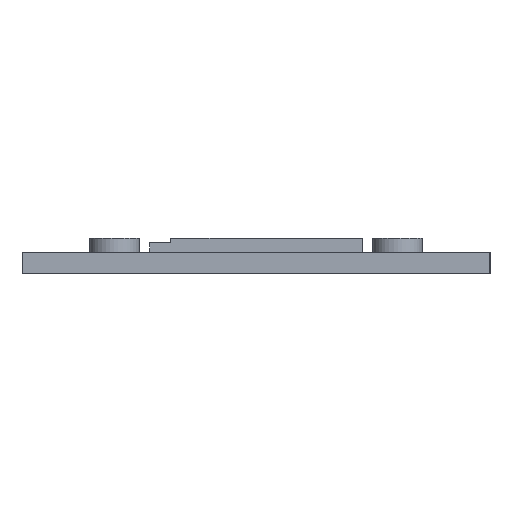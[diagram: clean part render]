
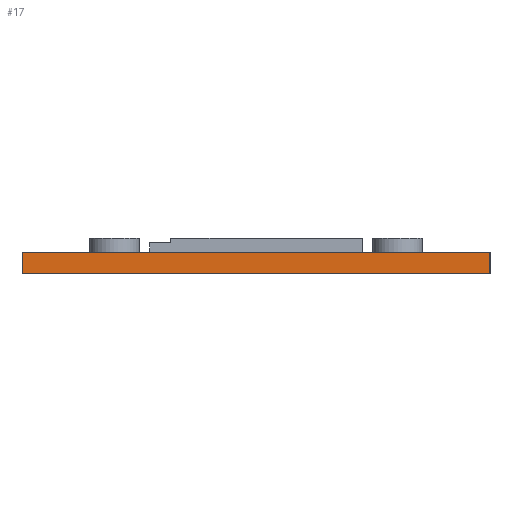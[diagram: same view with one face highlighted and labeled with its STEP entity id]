
A CAD part, left-side view. The second image highlights one B-rep face of the part: STEP entity #17.
In plain terms, the highlighted planar face has unit normal (-1, 0, 0).
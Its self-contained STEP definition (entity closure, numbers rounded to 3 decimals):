
#17 = ADVANCED_FACE('',(#18),#32,.F.);
#18 = FACE_BOUND('',#19,.F.);
#19 = EDGE_LOOP('',(#20,#55,#83,#111));
#20 = ORIENTED_EDGE('',*,*,#21,.F.);
#21 = EDGE_CURVE('',#22,#24,#26,.T.);
#22 = VERTEX_POINT('',#23);
#23 = CARTESIAN_POINT('',(-33.,-33.,0.));
#24 = VERTEX_POINT('',#25);
#25 = CARTESIAN_POINT('',(-33.,-33.,3.));
#26 = SURFACE_CURVE('',#27,(#31,#43),.PCURVE_S1.);
#27 = LINE('',#28,#29);
#28 = CARTESIAN_POINT('',(-33.,-33.,0.));
#29 = VECTOR('',#30,1.);
#30 = DIRECTION('',(0.,0.,1.));
#31 = PCURVE('',#32,#37);
#32 = PLANE('',#33);
#33 = AXIS2_PLACEMENT_3D('',#34,#35,#36);
#34 = CARTESIAN_POINT('',(-33.,-33.,0.));
#35 = DIRECTION('',(1.,0.,-0.));
#36 = DIRECTION('',(0.,0.,1.));
#37 = DEFINITIONAL_REPRESENTATION('',(#38),#42);
#38 = LINE('',#39,#40);
#39 = CARTESIAN_POINT('',(0.,0.));
#40 = VECTOR('',#41,1.);
#41 = DIRECTION('',(1.,0.));
#42 = ( GEOMETRIC_REPRESENTATION_CONTEXT(2) 
PARAMETRIC_REPRESENTATION_CONTEXT() REPRESENTATION_CONTEXT('2D SPACE',''
  ) );
#43 = PCURVE('',#44,#49);
#44 = PLANE('',#45);
#45 = AXIS2_PLACEMENT_3D('',#46,#47,#48);
#46 = CARTESIAN_POINT('',(-33.,-33.,0.));
#47 = DIRECTION('',(-0.,1.,0.));
#48 = DIRECTION('',(0.,0.,1.));
#49 = DEFINITIONAL_REPRESENTATION('',(#50),#54);
#50 = LINE('',#51,#52);
#51 = CARTESIAN_POINT('',(0.,0.));
#52 = VECTOR('',#53,1.);
#53 = DIRECTION('',(1.,0.));
#54 = ( GEOMETRIC_REPRESENTATION_CONTEXT(2) 
PARAMETRIC_REPRESENTATION_CONTEXT() REPRESENTATION_CONTEXT('2D SPACE',''
  ) );
#55 = ORIENTED_EDGE('',*,*,#56,.T.);
#56 = EDGE_CURVE('',#22,#57,#59,.T.);
#57 = VERTEX_POINT('',#58);
#58 = CARTESIAN_POINT('',(-33.,33.,0.));
#59 = SURFACE_CURVE('',#60,(#64,#71),.PCURVE_S1.);
#60 = LINE('',#61,#62);
#61 = CARTESIAN_POINT('',(-33.,-33.,0.));
#62 = VECTOR('',#63,1.);
#63 = DIRECTION('',(-0.,1.,0.));
#64 = PCURVE('',#32,#65);
#65 = DEFINITIONAL_REPRESENTATION('',(#66),#70);
#66 = LINE('',#67,#68);
#67 = CARTESIAN_POINT('',(0.,0.));
#68 = VECTOR('',#69,1.);
#69 = DIRECTION('',(0.,-1.));
#70 = ( GEOMETRIC_REPRESENTATION_CONTEXT(2) 
PARAMETRIC_REPRESENTATION_CONTEXT() REPRESENTATION_CONTEXT('2D SPACE',''
  ) );
#71 = PCURVE('',#72,#77);
#72 = PLANE('',#73);
#73 = AXIS2_PLACEMENT_3D('',#74,#75,#76);
#74 = CARTESIAN_POINT('',(-33.,-33.,0.));
#75 = DIRECTION('',(0.,0.,1.));
#76 = DIRECTION('',(1.,0.,-0.));
#77 = DEFINITIONAL_REPRESENTATION('',(#78),#82);
#78 = LINE('',#79,#80);
#79 = CARTESIAN_POINT('',(0.,0.));
#80 = VECTOR('',#81,1.);
#81 = DIRECTION('',(0.,1.));
#82 = ( GEOMETRIC_REPRESENTATION_CONTEXT(2) 
PARAMETRIC_REPRESENTATION_CONTEXT() REPRESENTATION_CONTEXT('2D SPACE',''
  ) );
#83 = ORIENTED_EDGE('',*,*,#84,.T.);
#84 = EDGE_CURVE('',#57,#85,#87,.T.);
#85 = VERTEX_POINT('',#86);
#86 = CARTESIAN_POINT('',(-33.,33.,3.));
#87 = SURFACE_CURVE('',#88,(#92,#99),.PCURVE_S1.);
#88 = LINE('',#89,#90);
#89 = CARTESIAN_POINT('',(-33.,33.,0.));
#90 = VECTOR('',#91,1.);
#91 = DIRECTION('',(0.,0.,1.));
#92 = PCURVE('',#32,#93);
#93 = DEFINITIONAL_REPRESENTATION('',(#94),#98);
#94 = LINE('',#95,#96);
#95 = CARTESIAN_POINT('',(0.,-66.));
#96 = VECTOR('',#97,1.);
#97 = DIRECTION('',(1.,0.));
#98 = ( GEOMETRIC_REPRESENTATION_CONTEXT(2) 
PARAMETRIC_REPRESENTATION_CONTEXT() REPRESENTATION_CONTEXT('2D SPACE',''
  ) );
#99 = PCURVE('',#100,#105);
#100 = PLANE('',#101);
#101 = AXIS2_PLACEMENT_3D('',#102,#103,#104);
#102 = CARTESIAN_POINT('',(-33.,33.,0.));
#103 = DIRECTION('',(-0.,1.,0.));
#104 = DIRECTION('',(0.,0.,1.));
#105 = DEFINITIONAL_REPRESENTATION('',(#106),#110);
#106 = LINE('',#107,#108);
#107 = CARTESIAN_POINT('',(0.,0.));
#108 = VECTOR('',#109,1.);
#109 = DIRECTION('',(1.,0.));
#110 = ( GEOMETRIC_REPRESENTATION_CONTEXT(2) 
PARAMETRIC_REPRESENTATION_CONTEXT() REPRESENTATION_CONTEXT('2D SPACE',''
  ) );
#111 = ORIENTED_EDGE('',*,*,#112,.F.);
#112 = EDGE_CURVE('',#24,#85,#113,.T.);
#113 = SURFACE_CURVE('',#114,(#118,#125),.PCURVE_S1.);
#114 = LINE('',#115,#116);
#115 = CARTESIAN_POINT('',(-33.,-33.,3.));
#116 = VECTOR('',#117,1.);
#117 = DIRECTION('',(-0.,1.,0.));
#118 = PCURVE('',#32,#119);
#119 = DEFINITIONAL_REPRESENTATION('',(#120),#124);
#120 = LINE('',#121,#122);
#121 = CARTESIAN_POINT('',(3.,0.));
#122 = VECTOR('',#123,1.);
#123 = DIRECTION('',(0.,-1.));
#124 = ( GEOMETRIC_REPRESENTATION_CONTEXT(2) 
PARAMETRIC_REPRESENTATION_CONTEXT() REPRESENTATION_CONTEXT('2D SPACE',''
  ) );
#125 = PCURVE('',#126,#131);
#126 = PLANE('',#127);
#127 = AXIS2_PLACEMENT_3D('',#128,#129,#130);
#128 = CARTESIAN_POINT('',(-33.,-33.,3.));
#129 = DIRECTION('',(0.,0.,1.));
#130 = DIRECTION('',(1.,0.,-0.));
#131 = DEFINITIONAL_REPRESENTATION('',(#132),#136);
#132 = LINE('',#133,#134);
#133 = CARTESIAN_POINT('',(0.,0.));
#134 = VECTOR('',#135,1.);
#135 = DIRECTION('',(0.,1.));
#136 = ( GEOMETRIC_REPRESENTATION_CONTEXT(2) 
PARAMETRIC_REPRESENTATION_CONTEXT() REPRESENTATION_CONTEXT('2D SPACE',''
  ) );
